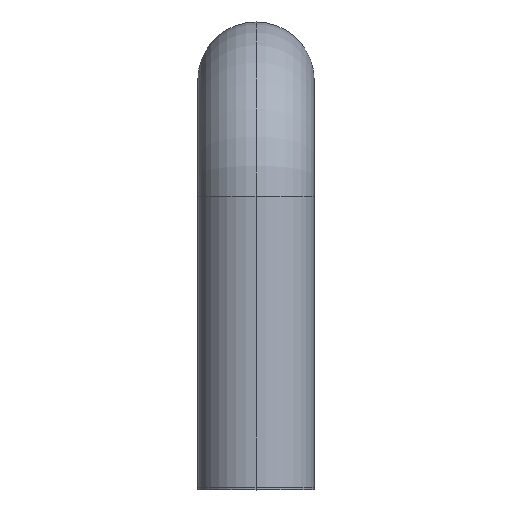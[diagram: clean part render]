
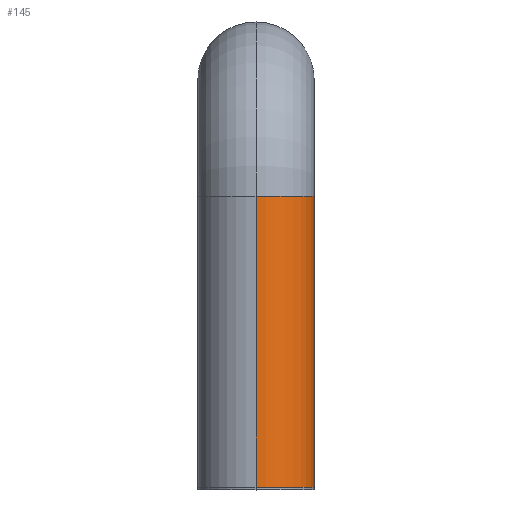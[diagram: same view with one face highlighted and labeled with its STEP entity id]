
A CAD part, top view. The second image highlights one B-rep face of the part: STEP entity #145.
In plain terms, the highlighted cylindrical face has radius 5 mm (diameter 10 mm), a partial arc.
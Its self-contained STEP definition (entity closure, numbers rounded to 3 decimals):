
#21 = DIRECTION ( 'NONE',  ( 0., 1., 0. ) ) ;
#29 = EDGE_CURVE ( 'NONE', #304, #117, #401, .T. ) ;
#76 = LINE ( 'NONE', #607, #208 ) ;
#108 = VERTEX_POINT ( 'NONE', #225 ) ;
#109 = AXIS2_PLACEMENT_3D ( 'NONE', #624, #134, #575 ) ;
#117 = VERTEX_POINT ( 'NONE', #620 ) ;
#126 = EDGE_LOOP ( 'NONE', ( #171, #318, #178, #398 ) ) ;
#132 = VECTOR ( 'NONE', #350, 1000. ) ;
#134 = DIRECTION ( 'NONE',  ( 0., 1., 0. ) ) ;
#145 = ADVANCED_FACE ( 'NONE', ( #473 ), #468, .T. ) ;
#166 = CARTESIAN_POINT ( 'NONE',  ( 0., 25., 0. ) ) ;
#171 = ORIENTED_EDGE ( 'NONE', *, *, #29, .T. ) ;
#178 = ORIENTED_EDGE ( 'NONE', *, *, #504, .F. ) ;
#203 = CARTESIAN_POINT ( 'NONE',  ( 0., 0., -5. ) ) ;
#208 = VECTOR ( 'NONE', #21, 1000. ) ;
#225 = CARTESIAN_POINT ( 'NONE',  ( 0., 25., -5. ) ) ;
#234 = AXIS2_PLACEMENT_3D ( 'NONE', #322, #505, #456 ) ;
#236 = AXIS2_PLACEMENT_3D ( 'NONE', #166, #603, #553 ) ;
#276 = EDGE_CURVE ( 'NONE', #117, #108, #585, .T. ) ;
#304 = VERTEX_POINT ( 'NONE', #538 ) ;
#318 = ORIENTED_EDGE ( 'NONE', *, *, #276, .T. ) ;
#320 = CARTESIAN_POINT ( 'NONE',  ( 0., 25., 5. ) ) ;
#322 = CARTESIAN_POINT ( 'NONE',  ( 0., 0., 0. ) ) ;
#350 = DIRECTION ( 'NONE',  ( 0., 1., 0. ) ) ;
#398 = ORIENTED_EDGE ( 'NONE', *, *, #476, .F. ) ;
#401 = CIRCLE ( 'NONE', #234, 5. ) ;
#422 = CIRCLE ( 'NONE', #236, 5. ) ;
#456 = DIRECTION ( 'NONE',  ( 0., 0., 1. ) ) ;
#459 = VERTEX_POINT ( 'NONE', #320 ) ;
#468 = CYLINDRICAL_SURFACE ( 'NONE', #109, 5. ) ;
#473 = FACE_OUTER_BOUND ( 'NONE', #126, .T. ) ;
#476 = EDGE_CURVE ( 'NONE', #304, #459, #76, .T. ) ;
#504 = EDGE_CURVE ( 'NONE', #459, #108, #422, .T. ) ;
#505 = DIRECTION ( 'NONE',  ( 0., 1., 0. ) ) ;
#538 = CARTESIAN_POINT ( 'NONE',  ( 0., 0., 5. ) ) ;
#553 = DIRECTION ( 'NONE',  ( 0., 0., 1. ) ) ;
#575 = DIRECTION ( 'NONE',  ( 0., 0., 1. ) ) ;
#585 = LINE ( 'NONE', #203, #132 ) ;
#603 = DIRECTION ( 'NONE',  ( 0., 1., 0. ) ) ;
#607 = CARTESIAN_POINT ( 'NONE',  ( 0., 0., 5. ) ) ;
#620 = CARTESIAN_POINT ( 'NONE',  ( 0., 0., -5. ) ) ;
#624 = CARTESIAN_POINT ( 'NONE',  ( 0., 0., 0. ) ) ;
